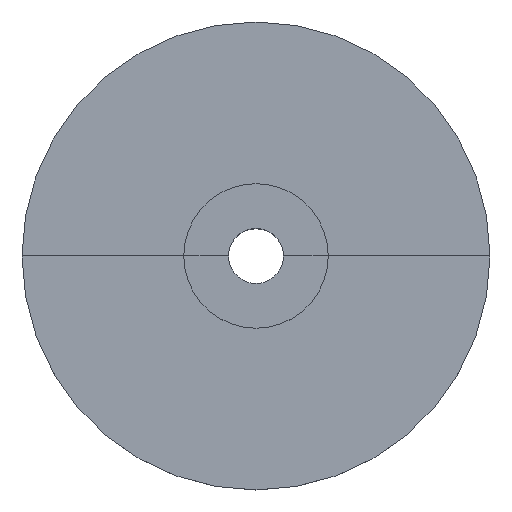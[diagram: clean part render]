
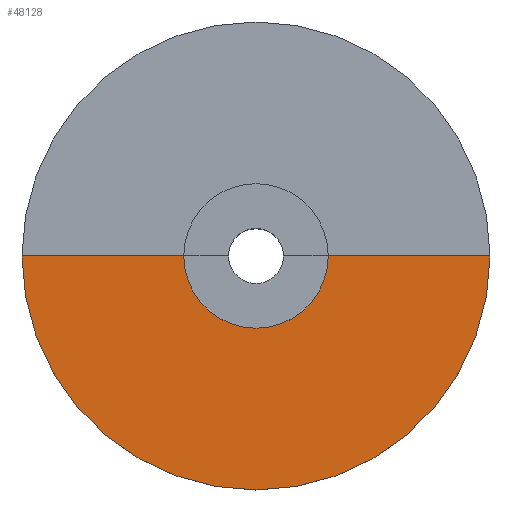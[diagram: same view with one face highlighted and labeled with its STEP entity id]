
A CAD part, top view. The second image highlights one B-rep face of the part: STEP entity #48128.
In plain terms, the highlighted planar face has unit normal (0, 0, 1).
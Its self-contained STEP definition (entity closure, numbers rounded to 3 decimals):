
#11=CARTESIAN_POINT('',(34.0,0.0,27.5));
#12=CARTESIAN_POINT('',(-34.0,0.0,27.5));
#13=CARTESIAN_POINT('',(10.5,0.0,27.5));
#14=CARTESIAN_POINT('',(-10.5,0.0,27.5));
#23849=CARTESIAN_POINT('',(0.0,0.0,27.5));
#23850=DIRECTION('',(0.0,0.0,1.0));
#23851=DIRECTION('',(1.0,0.0,0.0));
#23852=AXIS2_PLACEMENT_3D('',#23849,#23850,#23851);
#23853=CIRCLE('',#23852,34.0);
#23854=TRIMMED_CURVE('',#23853,(#12),(#11),.T.,.CARTESIAN.);
#23855=DIRECTION('',(1.0,0.0,0.0));
#23856=VECTOR('',#23855,1.0);
#23857=LINE('',#12,#23856);
#23864=DIRECTION('',(-1.0,0.0,0.0));
#23865=VECTOR('',#23864,1.0);
#23866=LINE('',#11,#23865);
#23867=CARTESIAN_POINT('',(0.0,0.0,27.5));
#23868=DIRECTION('',(0.0,0.0,1.0));
#23869=DIRECTION('',(1.0,0.0,0.0));
#23870=AXIS2_PLACEMENT_3D('',#23867,#23868,#23869);
#23871=CIRCLE('',#23870,10.5);
#23872=TRIMMED_CURVE('',#23871,(#14),(#13),.T.,.CARTESIAN.);
#25700=CARTESIAN_POINT('',(0.0,0.0,27.5));
#25701=DIRECTION('',(0.0,0.0,1.0));
#25702=DIRECTION('',(1.0,0.0,0.0));
#25703=AXIS2_PLACEMENT_3D('',#25700,#25701,#25702);
#25704=PLANE('',#25703);
#30149=VERTEX_POINT('',#11);
#30150=VERTEX_POINT('',#12);
#30151=VERTEX_POINT('',#13);
#30152=VERTEX_POINT('',#14);
#38212=EDGE_CURVE('',#30150,#30149,#23854,.T.);
#38213=EDGE_CURVE('',#30150,#30152,#23857,.T.);
#38215=EDGE_CURVE('',#30149,#30151,#23866,.T.);
#38216=EDGE_CURVE('',#30152,#30151,#23872,.T.);
#42669=ORIENTED_EDGE('',*,*,#38212,.T.);
#42670=ORIENTED_EDGE('',*,*,#38215,.T.);
#42671=ORIENTED_EDGE('',*,*,#38216,.F.);
#42672=ORIENTED_EDGE('',*,*,#38213,.F.);
#47536=EDGE_LOOP('',(#42669,#42670,#42671,#42672));
#47832=FACE_OUTER_BOUND('',#47536,.T.);
#48128=ADVANCED_FACE('',(#47832),#25704,.T.);
